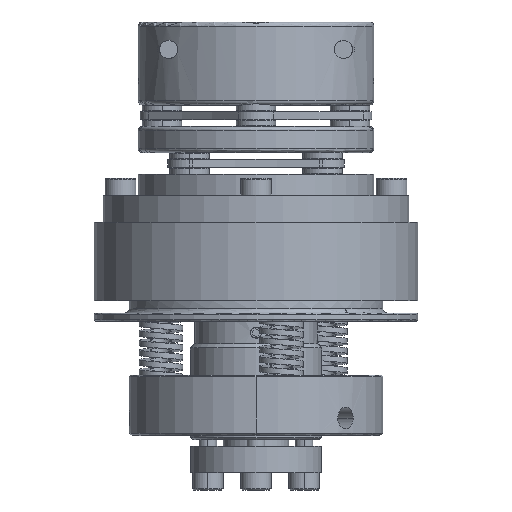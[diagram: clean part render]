
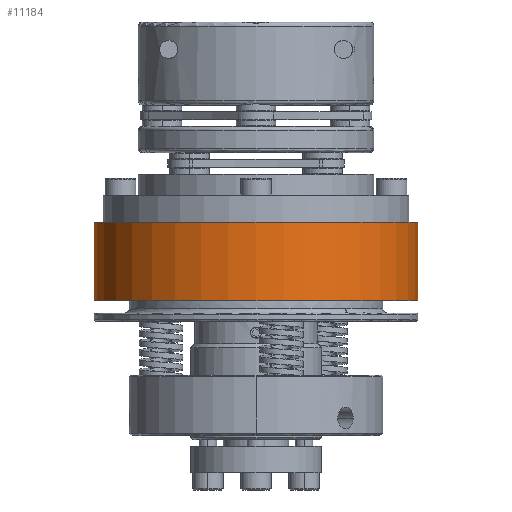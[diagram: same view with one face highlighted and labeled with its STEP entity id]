
A CAD part, front view. The second image highlights one B-rep face of the part: STEP entity #11184.
In plain terms, the highlighted cylindrical face has radius 37 mm (diameter 74 mm), a partial arc.
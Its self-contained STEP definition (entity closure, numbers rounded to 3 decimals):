
#4214 = DIRECTION ( 'NONE',  ( 1., 0., 0. ) ) ;
#4472 = DIRECTION ( 'NONE',  ( 0., 0., 1. ) ) ;
#5725 = VERTEX_POINT ( 'NONE', #53367 ) ;
#5784 = CARTESIAN_POINT ( 'NONE',  ( 36.58, 0.175, -0.199 ) ) ;
#8084 = CIRCLE ( 'NONE', #41871, 37. ) ;
#10145 = EDGE_CURVE ( 'NONE', #5725, #20864, #49014, .T. ) ;
#10156 = EDGE_CURVE ( 'NONE', #46805, #5725, #41829, .T. ) ;
#11184 = ADVANCED_FACE ( 'NONE', ( #39594 ), #38157, .T. ) ;
#11548 = VECTOR ( 'NONE', #40023, 1000. ) ;
#11668 = ORIENTED_EDGE ( 'NONE', *, *, #10145, .T. ) ;
#12799 = VERTEX_POINT ( 'NONE', #18010 ) ;
#15450 = CARTESIAN_POINT ( 'NONE',  ( -0.42, 0.175, 17.801 ) ) ;
#15664 = EDGE_CURVE ( 'NONE', #12799, #46805, #8084, .T. ) ;
#16480 = AXIS2_PLACEMENT_3D ( 'NONE', #47761, #29901, #49744 ) ;
#18010 = CARTESIAN_POINT ( 'NONE',  ( -37.42, 0.175, -0.199 ) ) ;
#20864 = VERTEX_POINT ( 'NONE', #33248 ) ;
#24462 = LINE ( 'NONE', #30582, #11548 ) ;
#26097 = VECTOR ( 'NONE', #36819, 1000. ) ;
#29901 = DIRECTION ( 'NONE',  ( 0., 0., 1. ) ) ;
#30582 = CARTESIAN_POINT ( 'NONE',  ( -37.42, 0.175, 28.801 ) ) ;
#33248 = CARTESIAN_POINT ( 'NONE',  ( -37.42, 0.175, 17.801 ) ) ;
#36819 = DIRECTION ( 'NONE',  ( 0., 0., 1. ) ) ;
#38157 = CYLINDRICAL_SURFACE ( 'NONE', #16480, 37. ) ;
#39594 = FACE_OUTER_BOUND ( 'NONE', #43511, .T. ) ;
#40023 = DIRECTION ( 'NONE',  ( 0., 0., 1. ) ) ;
#41107 = ORIENTED_EDGE ( 'NONE', *, *, #15664, .T. ) ;
#41539 = ORIENTED_EDGE ( 'NONE', *, *, #53164, .F. ) ;
#41829 = LINE ( 'NONE', #49441, #26097 ) ;
#41871 = AXIS2_PLACEMENT_3D ( 'NONE', #54674, #4472, #59309 ) ;
#43053 = DIRECTION ( 'NONE',  ( 0., 0., -1. ) ) ;
#43511 = EDGE_LOOP ( 'NONE', ( #41539, #41107, #52398, #11668 ) ) ;
#46805 = VERTEX_POINT ( 'NONE', #5784 ) ;
#47761 = CARTESIAN_POINT ( 'NONE',  ( -0.42, 0.175, 28.801 ) ) ;
#49014 = CIRCLE ( 'NONE', #53598, 37. ) ;
#49441 = CARTESIAN_POINT ( 'NONE',  ( 36.58, 0.175, 28.801 ) ) ;
#49744 = DIRECTION ( 'NONE',  ( 1., 0., 0. ) ) ;
#52398 = ORIENTED_EDGE ( 'NONE', *, *, #10156, .T. ) ;
#53164 = EDGE_CURVE ( 'NONE', #12799, #20864, #24462, .T. ) ;
#53367 = CARTESIAN_POINT ( 'NONE',  ( 36.58, 0.175, 17.801 ) ) ;
#53598 = AXIS2_PLACEMENT_3D ( 'NONE', #15450, #43053, #4214 ) ;
#54674 = CARTESIAN_POINT ( 'NONE',  ( -0.42, 0.175, -0.199 ) ) ;
#59309 = DIRECTION ( 'NONE',  ( 1., 0., 0. ) ) ;
